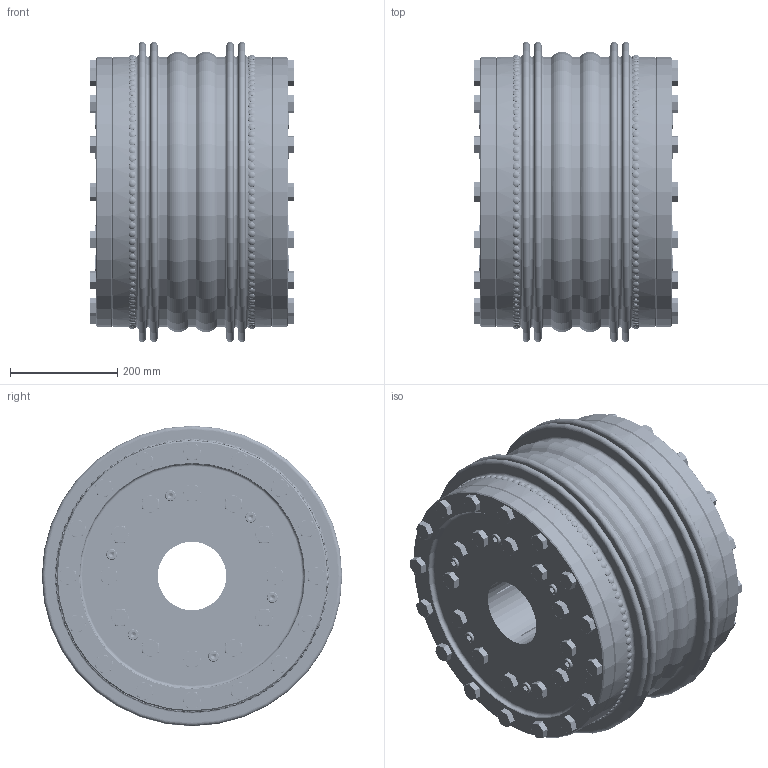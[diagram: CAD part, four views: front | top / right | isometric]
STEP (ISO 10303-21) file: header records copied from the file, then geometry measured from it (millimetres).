
FILE_DESCRIPTION(/* description */ ('Unknown'),/* implementation_level */ '2;1');
FILE_NAME(/* name */ 'KXL 50 B-B',/* time_stamp */ '2020-07-06T10:31:06+02:00',/* author */ ('Unknown'),/* organization */ ('Unknown'),/* preprocessor_version */ 'ST-DEVELOPER v16.7',/* originating_system */ 'DEX',/* authorisation */ $);
FILE_SCHEMA (('AUTOMOTIVE_DESIGN {1 0 10303 214 3 1 1}'));
Products named in the file (1): KXL 50 B-B
Bounding box: 382 x 560.5 x 560.5 mm (x, y, z)
Volume: 32378517.4 mm3; surface area: 3762124.7 mm2
Topology: 1 solids, 59 shells, 2836 faces, 6318 edges, 4206 vertices
Faces by surface type: plane 1240, torus 972, cylinder 494, cone 130
Full cylindrical faces by diameter (mm): 6.4 x200, 15 x12, 17.294 x68, 20 x68, 21 x56, 28.2 x56, 128 x2, 380 x2, 410 x4, 420 x4, 430 x2, 487 x2, 499.7 x3, 504.7 x3, 505 x4
Entity records: 69966 total; most frequent: CARTESIAN_POINT 17789, DIRECTION 10630, ORIENTED_EDGE 8172, FACE_BOUND 5044, EDGE_LOOP 4808, AXIS2_PLACEMENT_3D 4795, EDGE_CURVE 4086, VERTEX_POINT 3458
